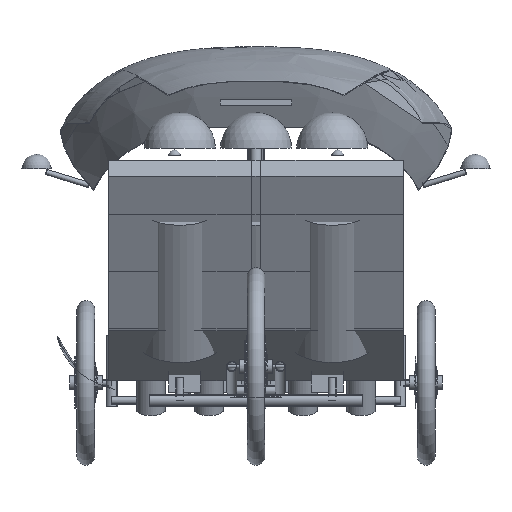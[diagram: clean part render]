
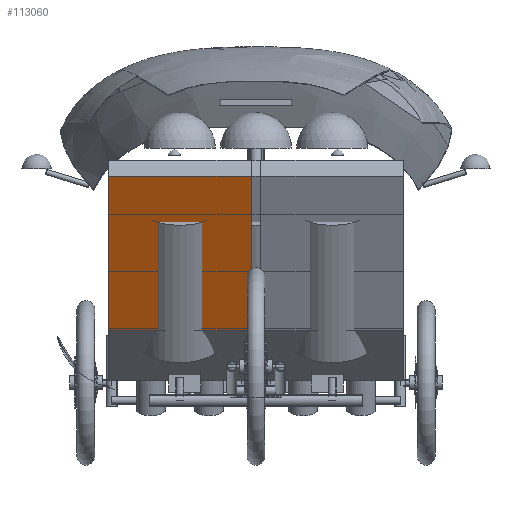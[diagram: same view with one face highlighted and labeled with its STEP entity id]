
A CAD part, left-side view. The second image highlights one B-rep face of the part: STEP entity #113060.
In plain terms, the highlighted planar face has unit normal (-0.883, 0, -0.469).
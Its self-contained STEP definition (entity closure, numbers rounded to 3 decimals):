
#112207 = PLANE('',#112208);
#112208 = AXIS2_PLACEMENT_3D('',#112209,#112210,#112211);
#112209 = CARTESIAN_POINT('',(-2007.475,15.,498.028));
#112210 = DIRECTION('',(0.,1.,0.));
#112211 = DIRECTION('',(0.,-0.,1.));
#112263 = PLANE('',#112264);
#112264 = AXIS2_PLACEMENT_3D('',#112265,#112266,#112267);
#112265 = CARTESIAN_POINT('',(-2007.475,455.,498.028)
  );
#112266 = DIRECTION('',(0.,1.,0.));
#112267 = DIRECTION('',(0.,-0.,1.));
#112930 = PLANE('',#112931);
#112931 = AXIS2_PLACEMENT_3D('',#112932,#112933,#112934);
#112932 = CARTESIAN_POINT('',(-2326.975,235.,891.104)
  );
#112933 = DIRECTION('',(-0.64,0.,0.768));
#112934 = DIRECTION('',(0.768,0.,0.64));
#112988 = EDGE_CURVE('',#112989,#112991,#112993,.T.);
#112989 = VERTEX_POINT('',#112990);
#112990 = CARTESIAN_POINT('',(-2326.975,15.,891.104));
#112991 = VERTEX_POINT('',#112992);
#112992 = CARTESIAN_POINT('',(-2326.975,455.,891.104)
  );
#112993 = SURFACE_CURVE('',#112994,(#112998,#113005),.PCURVE_S1.);
#112994 = LINE('',#112995,#112996);
#112995 = CARTESIAN_POINT('',(-2326.975,15.,891.104));
#112996 = VECTOR('',#112997,1.);
#112997 = DIRECTION('',(0.,1.,0.));
#112998 = PCURVE('',#112930,#112999);
#112999 = DEFINITIONAL_REPRESENTATION('',(#113000),#113004);
#113000 = LINE('',#113001,#113002);
#113001 = CARTESIAN_POINT('',(0.,-220.));
#113002 = VECTOR('',#113003,1.);
#113003 = DIRECTION('',(0.,1.));
#113004 = ( GEOMETRIC_REPRESENTATION_CONTEXT(2) 
PARAMETRIC_REPRESENTATION_CONTEXT() REPRESENTATION_CONTEXT('2D SPACE',''
  ) );
#113005 = PCURVE('',#113006,#113011);
#113006 = PLANE('',#113007);
#113007 = AXIS2_PLACEMENT_3D('',#113008,#113009,#113010);
#113008 = CARTESIAN_POINT('',(-2073.461,235.,414.312)
  );
#113009 = DIRECTION('',(-0.883,-0.,-0.469));
#113010 = DIRECTION('',(-0.469,0.,0.883));
#113011 = DEFINITIONAL_REPRESENTATION('',(#113012),#113016);
#113012 = LINE('',#113013,#113014);
#113013 = CARTESIAN_POINT('',(540.,-220.));
#113014 = VECTOR('',#113015,1.);
#113015 = DIRECTION('',(0.,1.));
#113016 = ( GEOMETRIC_REPRESENTATION_CONTEXT(2) 
PARAMETRIC_REPRESENTATION_CONTEXT() REPRESENTATION_CONTEXT('2D SPACE',''
  ) );
#113060 = ADVANCED_FACE('',(#113061),#113006,.T.);
#113061 = FACE_BOUND('',#113062,.T.);
#113062 = EDGE_LOOP('',(#113063,#113093,#113114,#113115));
#113063 = ORIENTED_EDGE('',*,*,#113064,.F.);
#113064 = EDGE_CURVE('',#113065,#113067,#113069,.T.);
#113065 = VERTEX_POINT('',#113066);
#113066 = CARTESIAN_POINT('',(-2073.461,15.,414.312));
#113067 = VERTEX_POINT('',#113068);
#113068 = CARTESIAN_POINT('',(-2073.461,455.,414.312)
  );
#113069 = SURFACE_CURVE('',#113070,(#113074,#113081),.PCURVE_S1.);
#113070 = LINE('',#113071,#113072);
#113071 = CARTESIAN_POINT('',(-2073.461,15.,414.312));
#113072 = VECTOR('',#113073,1.);
#113073 = DIRECTION('',(0.,1.,0.));
#113074 = PCURVE('',#113006,#113075);
#113075 = DEFINITIONAL_REPRESENTATION('',(#113076),#113080);
#113076 = LINE('',#113077,#113078);
#113077 = CARTESIAN_POINT('',(0.,-220.));
#113078 = VECTOR('',#113079,1.);
#113079 = DIRECTION('',(0.,1.));
#113080 = ( GEOMETRIC_REPRESENTATION_CONTEXT(2) 
PARAMETRIC_REPRESENTATION_CONTEXT() REPRESENTATION_CONTEXT('2D SPACE',''
  ) );
#113081 = PCURVE('',#113082,#113087);
#113082 = PLANE('',#113083);
#113083 = AXIS2_PLACEMENT_3D('',#113084,#113085,#113086);
#113084 = CARTESIAN_POINT('',(-1900.,235.,260.));
#113085 = DIRECTION('',(-0.665,-0.,-0.747));
#113086 = DIRECTION('',(-0.747,0.,0.665));
#113087 = DEFINITIONAL_REPRESENTATION('',(#113088),#113092);
#113088 = LINE('',#113089,#113090);
#113089 = CARTESIAN_POINT('',(232.165,-220.));
#113090 = VECTOR('',#113091,1.);
#113091 = DIRECTION('',(0.,1.));
#113092 = ( GEOMETRIC_REPRESENTATION_CONTEXT(2) 
PARAMETRIC_REPRESENTATION_CONTEXT() REPRESENTATION_CONTEXT('2D SPACE',''
  ) );
#113093 = ORIENTED_EDGE('',*,*,#113094,.F.);
#113094 = EDGE_CURVE('',#112989,#113065,#113095,.T.);
#113095 = SURFACE_CURVE('',#113096,(#113100,#113107),.PCURVE_S1.);
#113096 = LINE('',#113097,#113098);
#113097 = CARTESIAN_POINT('',(-2326.975,15.,891.104));
#113098 = VECTOR('',#113099,1.);
#113099 = DIRECTION('',(0.469,0.,-0.883));
#113100 = PCURVE('',#113006,#113101);
#113101 = DEFINITIONAL_REPRESENTATION('',(#113102),#113106);
#113102 = LINE('',#113103,#113104);
#113103 = CARTESIAN_POINT('',(540.,-220.));
#113104 = VECTOR('',#113105,1.);
#113105 = DIRECTION('',(-1.,0.));
#113106 = ( GEOMETRIC_REPRESENTATION_CONTEXT(2) 
PARAMETRIC_REPRESENTATION_CONTEXT() REPRESENTATION_CONTEXT('2D SPACE',''
  ) );
#113107 = PCURVE('',#112207,#113108);
#113108 = DEFINITIONAL_REPRESENTATION('',(#113109),#113113);
#113109 = LINE('',#113110,#113111);
#113110 = CARTESIAN_POINT('',(393.075,-319.5));
#113111 = VECTOR('',#113112,1.);
#113112 = DIRECTION('',(-0.883,0.469));
#113113 = ( GEOMETRIC_REPRESENTATION_CONTEXT(2) 
PARAMETRIC_REPRESENTATION_CONTEXT() REPRESENTATION_CONTEXT('2D SPACE',''
  ) );
#113114 = ORIENTED_EDGE('',*,*,#112988,.T.);
#113115 = ORIENTED_EDGE('',*,*,#113116,.F.);
#113116 = EDGE_CURVE('',#113067,#112991,#113117,.T.);
#113117 = SURFACE_CURVE('',#113118,(#113122,#113129),.PCURVE_S1.);
#113118 = LINE('',#113119,#113120);
#113119 = CARTESIAN_POINT('',(-2073.461,455.,414.312)
  );
#113120 = VECTOR('',#113121,1.);
#113121 = DIRECTION('',(-0.469,0.,0.883));
#113122 = PCURVE('',#113006,#113123);
#113123 = DEFINITIONAL_REPRESENTATION('',(#113124),#113128);
#113124 = LINE('',#113125,#113126);
#113125 = CARTESIAN_POINT('',(0.,220.));
#113126 = VECTOR('',#113127,1.);
#113127 = DIRECTION('',(1.,0.));
#113128 = ( GEOMETRIC_REPRESENTATION_CONTEXT(2) 
PARAMETRIC_REPRESENTATION_CONTEXT() REPRESENTATION_CONTEXT('2D SPACE',''
  ) );
#113129 = PCURVE('',#112263,#113130);
#113130 = DEFINITIONAL_REPRESENTATION('',(#113131),#113135);
#113131 = LINE('',#113132,#113133);
#113132 = CARTESIAN_POINT('',(-83.716,-65.986));
#113133 = VECTOR('',#113134,1.);
#113134 = DIRECTION('',(0.883,-0.469));
#113135 = ( GEOMETRIC_REPRESENTATION_CONTEXT(2) 
PARAMETRIC_REPRESENTATION_CONTEXT() REPRESENTATION_CONTEXT('2D SPACE',''
  ) );
